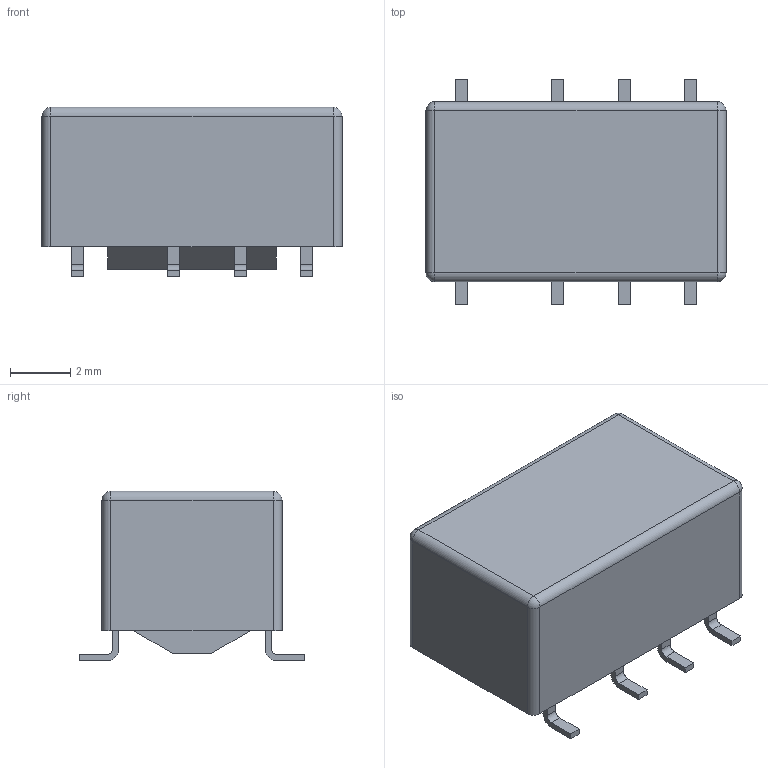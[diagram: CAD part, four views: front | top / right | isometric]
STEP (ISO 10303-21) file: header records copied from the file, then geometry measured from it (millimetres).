
FILE_DESCRIPTION (( 'STEP AP214' ), '1' );
FILE_NAME ('RELAY-SMD_IMXXGR.step', '2022-07-09T12:39:51', ( '' ), ( '' ), 'SwSTEP 2.0', 'SolidWorks 2020', '' );
FILE_SCHEMA (( 'AUTOMOTIVE_DESIGN' ));
Length unit declared in the file: millimetre
Products named in the file (1): RELAY-SMD_IMXXGR
Bounding box: 10 x 7.5 x 5.65 mm (x, y, z)
Volume: 290.2 mm3; surface area: 287.7 mm2
Topology: 1 solids, 1 shells, 378 faces, 1015 edges, 670 vertices
Faces by surface type: plane 238, bspline 112, cylinder 24, sphere 4
Entity records: 16444 total; most frequent: CARTESIAN_POINT 4164, ORIENTED_EDGE 2022, DIRECTION 1365, EDGE_CURVE 1011, LINE 735, VECTOR 735, VERTEX_POINT 670, EDGE_LOOP 413
